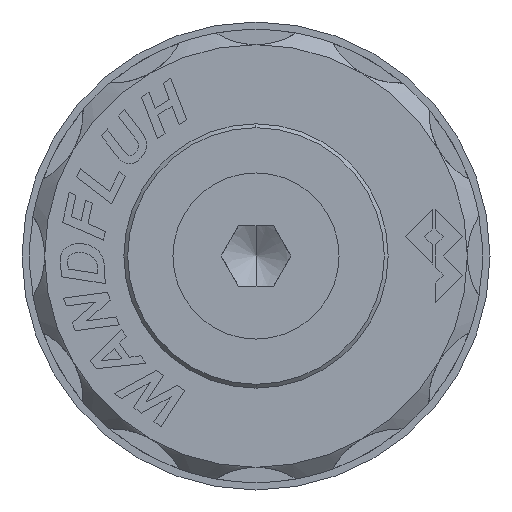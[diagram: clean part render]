
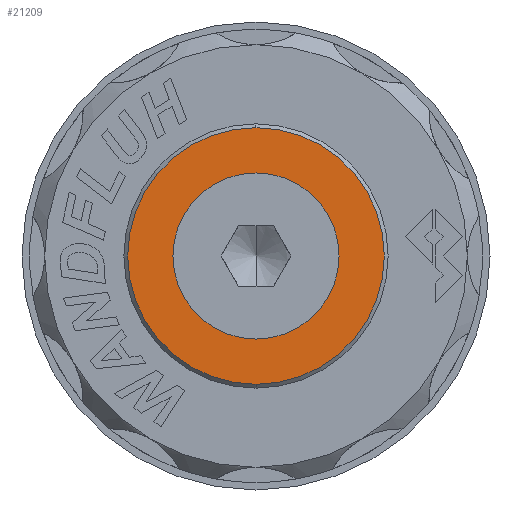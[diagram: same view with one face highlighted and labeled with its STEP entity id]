
A CAD part, left-side view. The second image highlights one B-rep face of the part: STEP entity #21209.
In plain terms, the highlighted planar face has unit normal (-1, 0, 0).
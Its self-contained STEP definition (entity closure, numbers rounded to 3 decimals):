
#134 = VERTEX_POINT ( 'NONE', #10849 ) ;
#168 = DIRECTION ( 'NONE',  ( -1., 0., 0. ) ) ;
#225 = FACE_OUTER_BOUND ( 'NONE', #8692, .T. ) ;
#291 = AXIS2_PLACEMENT_3D ( 'NONE', #21923, #21992, #3746 ) ;
#1900 = ORIENTED_EDGE ( 'NONE', *, *, #6082, .T. ) ;
#2745 = AXIS2_PLACEMENT_3D ( 'NONE', #9092, #168, #5653 ) ;
#2788 = FACE_BOUND ( 'NONE', #8205, .T. ) ;
#2906 = DIRECTION ( 'NONE',  ( -1., 0., 0. ) ) ;
#3501 = CARTESIAN_POINT ( 'NONE',  ( -82.7, 0., 0. ) ) ;
#3746 = DIRECTION ( 'NONE',  ( 0., 0., 1. ) ) ;
#4093 = CARTESIAN_POINT ( 'NONE',  ( -82.7, 0., 8.5 ) ) ;
#5079 = DIRECTION ( 'NONE',  ( 1., 0., 0. ) ) ;
#5372 = ORIENTED_EDGE ( 'NONE', *, *, #23563, .F. ) ;
#5653 = DIRECTION ( 'NONE',  ( 0., 0., -1. ) ) ;
#6082 = EDGE_CURVE ( 'NONE', #11063, #134, #19582, .T. ) ;
#7660 = CIRCLE ( 'NONE', #291, 8.5 ) ;
#8052 = DIRECTION ( 'NONE',  ( 0., 0., 1. ) ) ;
#8205 = EDGE_LOOP ( 'NONE', ( #8854, #5372 ) ) ;
#8692 = EDGE_LOOP ( 'NONE', ( #15905, #1900 ) ) ;
#8854 = ORIENTED_EDGE ( 'NONE', *, *, #10032, .F. ) ;
#9092 = CARTESIAN_POINT ( 'NONE',  ( -82.7, 0., 0. ) ) ;
#10032 = EDGE_CURVE ( 'NONE', #17866, #12564, #16977, .T. ) ;
#10408 = AXIS2_PLACEMENT_3D ( 'NONE', #19045, #2906, #8052 ) ;
#10849 = CARTESIAN_POINT ( 'NONE',  ( -82.7, 0., -8.5 ) ) ;
#11063 = VERTEX_POINT ( 'NONE', #4093 ) ;
#11153 = AXIS2_PLACEMENT_3D ( 'NONE', #12553, #16399, #22003 ) ;
#11721 = CARTESIAN_POINT ( 'NONE',  ( -82.7, 0., 5.5 ) ) ;
#12553 = CARTESIAN_POINT ( 'NONE',  ( -82.7, 0., 0. ) ) ;
#12564 = VERTEX_POINT ( 'NONE', #16795 ) ;
#13134 = CIRCLE ( 'NONE', #2745, 5.5 ) ;
#14274 = AXIS2_PLACEMENT_3D ( 'NONE', #3501, #5079, #17900 ) ;
#15905 = ORIENTED_EDGE ( 'NONE', *, *, #23601, .T. ) ;
#16399 = DIRECTION ( 'NONE',  ( -1., 0., 0. ) ) ;
#16795 = CARTESIAN_POINT ( 'NONE',  ( -82.7, 0., -5.5 ) ) ;
#16977 = CIRCLE ( 'NONE', #11153, 5.5 ) ;
#17866 = VERTEX_POINT ( 'NONE', #11721 ) ;
#17900 = DIRECTION ( 'NONE',  ( 0., 0., -1. ) ) ;
#19045 = CARTESIAN_POINT ( 'NONE',  ( -82.7, 0., 0. ) ) ;
#19582 = CIRCLE ( 'NONE', #10408, 8.5 ) ;
#21209 = ADVANCED_FACE ( 'NONE', ( #2788, #225 ), #21643, .F. ) ;
#21643 = PLANE ( 'NONE',  #14274 ) ;
#21923 = CARTESIAN_POINT ( 'NONE',  ( -82.7, 0., 0. ) ) ;
#21992 = DIRECTION ( 'NONE',  ( -1., 0., 0. ) ) ;
#22003 = DIRECTION ( 'NONE',  ( 0., 0., -1. ) ) ;
#23563 = EDGE_CURVE ( 'NONE', #12564, #17866, #13134, .T. ) ;
#23601 = EDGE_CURVE ( 'NONE', #134, #11063, #7660, .T. ) ;
